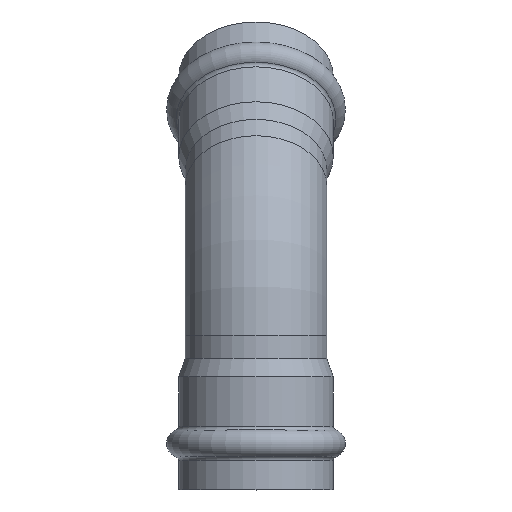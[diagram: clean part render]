
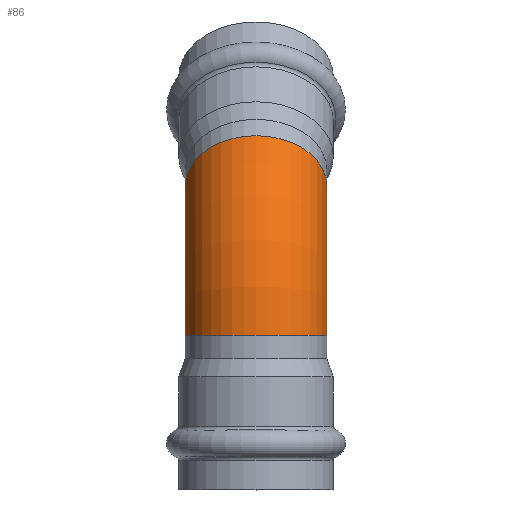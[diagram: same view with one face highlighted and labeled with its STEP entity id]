
A CAD part, top view. The second image highlights one B-rep face of the part: STEP entity #86.
In plain terms, the highlighted toroidal (fillet/blend) face has major radius 52.5 mm and minor radius 17.5 mm.
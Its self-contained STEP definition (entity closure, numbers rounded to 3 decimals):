
#86=ADVANCED_FACE('',(#384,#386),#388,.T.);
#384=FACE_BOUND('',#385,.T.);
#385=EDGE_LOOP('',(#474,#475));
#386=FACE_OUTER_BOUND('',#387,.T.);
#387=EDGE_LOOP('',(#476));
#388=TOROIDAL_SURFACE('',#389,52.5,17.5);
#389=AXIS2_PLACEMENT_3D('',#390,#391,#392);
#390=CARTESIAN_POINT('',(0.,38.254,-52.5));
#391=DIRECTION('',(-1.,0.,0.));
#392=DIRECTION('',(0.,0.,1.));
#474=ORIENTED_EDGE('',*,*,#518,.T.);
#475=ORIENTED_EDGE('',*,*,#517,.T.);
#476=ORIENTED_EDGE('',*,*,#516,.F.);
#516=EDGE_CURVE('',#597,#597,#598,.T.);
#517=EDGE_CURVE('',#599,#600,#601,.T.);
#518=EDGE_CURVE('',#600,#599,#602,.T.);
#597=VERTEX_POINT('',#798);
#598=CIRCLE('',#799,17.5);
#599=VERTEX_POINT('',#803);
#600=VERTEX_POINT('',#804);
#601=CIRCLE('',#805,17.5);
#602=CIRCLE('',#809,17.5);
#798=CARTESIAN_POINT('',(-17.5,75.377,-15.377));
#799=AXIS2_PLACEMENT_3D('',#800,#801,#802);
#800=CARTESIAN_POINT('',(0.,75.377,-15.377));
#801=DIRECTION('',(0.,0.707,-0.707));
#802=DIRECTION('',(-1.,0.,0.));
#803=CARTESIAN_POINT('',(-17.5,38.254,0.));
#804=CARTESIAN_POINT('',(0.,38.254,17.5));
#805=AXIS2_PLACEMENT_3D('',#806,#807,#808);
#806=CARTESIAN_POINT('',(0.,38.254,0.));
#807=DIRECTION('',(0.,1.,0.));
#808=DIRECTION('',(-1.,0.,0.));
#809=AXIS2_PLACEMENT_3D('',#810,#811,#812);
#810=CARTESIAN_POINT('',(0.,38.254,0.));
#811=DIRECTION('',(0.,1.,0.));
#812=DIRECTION('',(0.,0.,1.));
